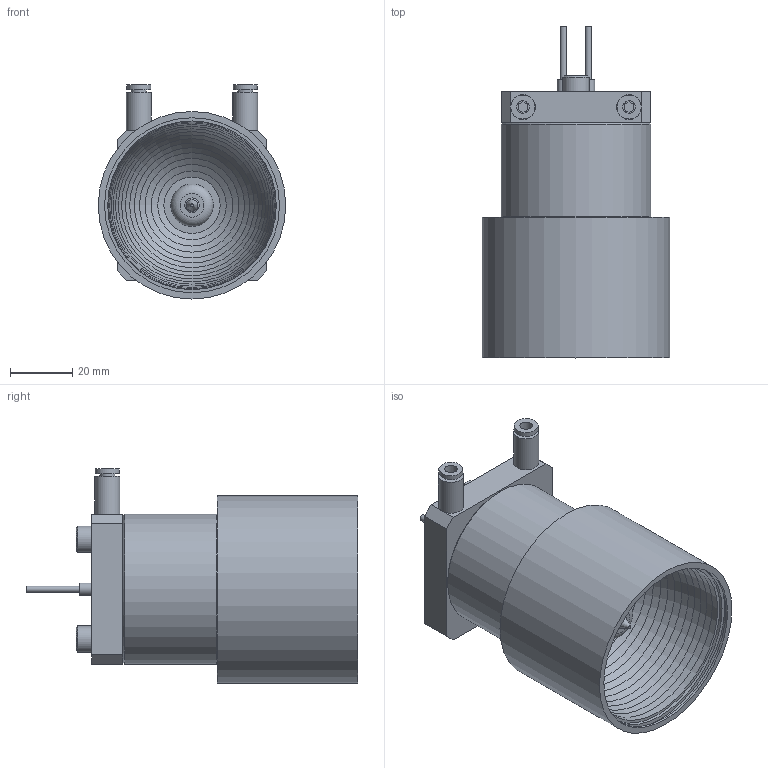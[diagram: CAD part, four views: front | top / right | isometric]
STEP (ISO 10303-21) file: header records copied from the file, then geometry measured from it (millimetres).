
FILE_DESCRIPTION(/* description */ (''),/* implementation_level */ '2;1');
FILE_NAME(/* name */ 'D:/ドキュメント/ACLT/その他/FTC_HP/HSH/3D/HSH-60_WT_01.step',/* time_stamp */ '2018-05-31T12:50:58+09:00',/* author */ ('j.masuoka@mbe.nifty.com'),/* organization */ (''),/* preprocessor_version */ 'ST-DEVELOPER v17',/* originating_system */ 'Autodesk Translation Framework v7.1.0.215',/* authorisation */ '');
FILE_SCHEMA (('AUTOMOTIVE_DESIGN { 1 0 10303 214 3 1 1 }'));
Length unit declared in the file: millimetre
Products named in the file (13): HSH-60wt_01; 60-7 v1; 60-02 v1; SCB4-30 v1; SCB4-30 v1 (1); 60-01 v2; 60-8 v1; SCB5-15 v2; SCB5-15 v2 (1); 60-03b v1; 60-03b v1 (1); KQ2S04-M6A v3; KQ2S04-M6A v3 (1)
Assembly tree (12 placements, depth 2):
  HSH-60wt_01
    60-7 v1
    60-02 v1
    SCB4-30 v1
    SCB4-30 v1 (1)
    60-01 v2
    60-8 v1
    SCB5-15 v2
    SCB5-15 v2 (1)
    60-03b v1
    60-03b v1 (1)
    KQ2S04-M6A v3
    KQ2S04-M6A v3 (1)
Bounding box: 60 x 106.2 x 68.5 mm (x, y, z)
Volume: 137340.1 mm3; surface area: 41872 mm2
Topology: 13 solids, 13 shells, 210 faces, 523 edges, 365 vertices
Faces by surface type: plane 118, cylinder 44, cone 40, torus 6, sphere 2
Full cylindrical faces by diameter (mm): 2 x2, 3.332 x2, 3.8 x1, 4 x6, 4.234 x2, 4.8 x2, 5 x6, 6 x2, 7 x2, 7.7 x2, 8 x4, 8.5 x2, 11.6 x1, 13 x1, 13.6 x1, 18 x1, 44 x1, 44.1 x1, 48 x1, 56 x2, 58.4 x1, 60 x1
Entity records: 6962 total; most frequent: DIRECTION 1260, CARTESIAN_POINT 1115, ORIENTED_EDGE 1030, EDGE_CURVE 515, AXIS2_PLACEMENT_3D 510, VERTEX_POINT 365, CIRCLE 275, EDGE_LOOP 256
